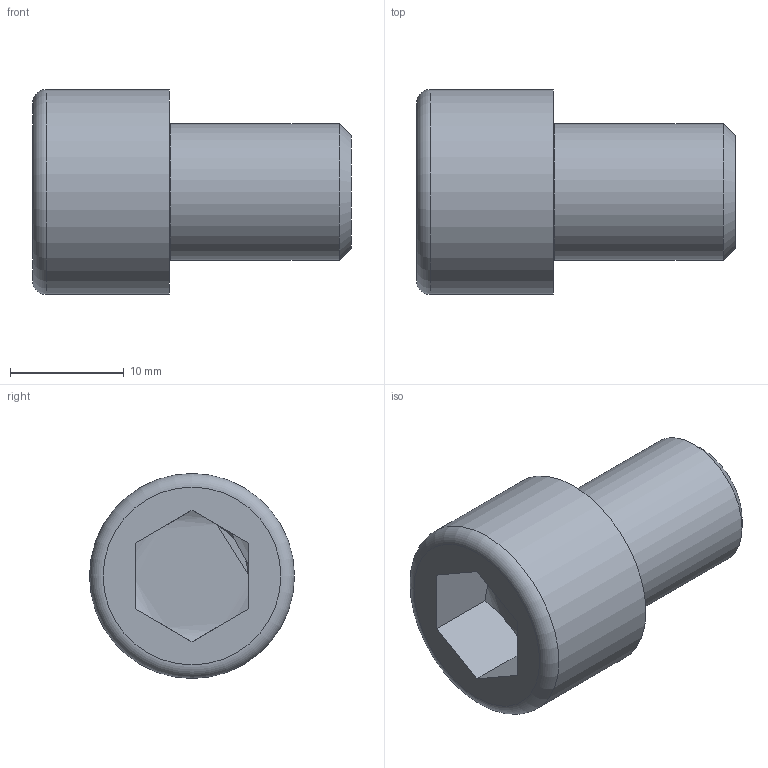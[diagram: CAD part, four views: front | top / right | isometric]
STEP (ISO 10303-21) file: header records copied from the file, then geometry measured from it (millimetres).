
FILE_DESCRIPTION(/* description */ ('6각머리 태핑 나사'),/* implementation_level */ '2;1');
FILE_NAME(/* name */ '',/* time_stamp */ '2024-08-29T13:11:32+09:00',/* author */ ('jhkim'),/* organization */ (''),/* preprocessor_version */ 'ST-DEVELOPER v20',/* originating_system */ 'Autodesk Inventor 2025',/* authorisation */ '');
FILE_SCHEMA (('AUTOMOTIVE_DESIGN { 1 0 10303 214 3 1 1 }'));
Length unit declared in the file: millimetre
Products named in the file (1): 육각 소켓 머리 볼트 
M12x16
Bounding box: 28 x 18 x 18 mm (x, y, z)
Volume: 4193.1 mm3; surface area: 1965.5 mm2
Topology: 1 solids, 1 shells, 15 faces, 36 edges, 24 vertices
Faces by surface type: plane 9, torus 2, cylinder 2, cone 2
Full cylindrical faces by diameter (mm): 12 x1, 18 x1
Entity records: 473 total; most frequent: CARTESIAN_POINT 89, DIRECTION 72, ORIENTED_EDGE 70, EDGE_CURVE 35, AXIS2_PLACEMENT_3D 28, VERTEX_POINT 24, EDGE_LOOP 17, LINE 16
